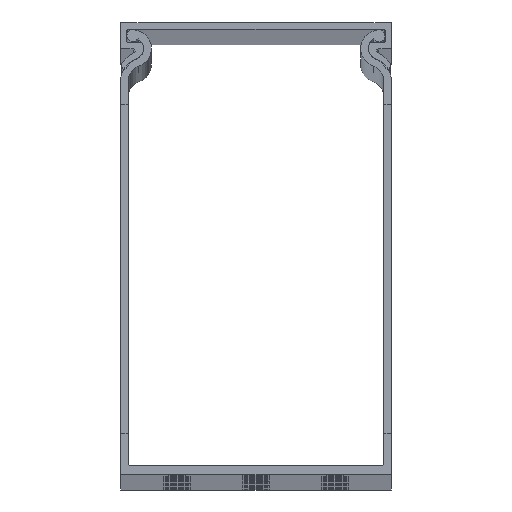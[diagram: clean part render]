
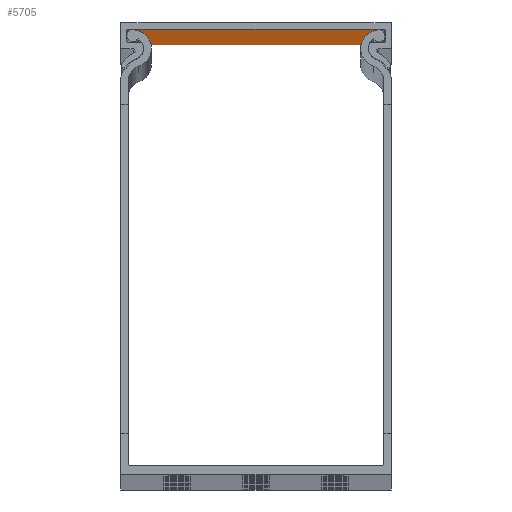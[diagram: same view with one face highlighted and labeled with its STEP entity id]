
A CAD part, top view. The second image highlights one B-rep face of the part: STEP entity #5705.
In plain terms, the highlighted planar face has unit normal (0, -1, 0).
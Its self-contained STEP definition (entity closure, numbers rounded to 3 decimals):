
#559 = ORIENTED_EDGE ( 'NONE', *, *, #46710, .F. ) ;
#1416 = LINE ( 'NONE', #49942, #38324 ) ;
#2066 = CARTESIAN_POINT ( 'NONE',  ( 2540.007, 1295.656, 2000. ) ) ;
#2425 = CARTESIAN_POINT ( 'NONE',  ( 2540.007, 1295.656, 0. ) ) ;
#2784 = VERTEX_POINT ( 'NONE', #34737 ) ;
#5705 = ADVANCED_FACE ( 'NONE', ( #50049 ), #6361, .F. ) ;
#6001 = LINE ( 'NONE', #56447, #6656 ) ;
#6361 = PLANE ( 'NONE',  #44052 ) ;
#6647 = VERTEX_POINT ( 'NONE', #38986 ) ;
#6656 = VECTOR ( 'NONE', #42954, 1000. ) ;
#9727 = ORIENTED_EDGE ( 'NONE', *, *, #42423, .T. ) ;
#11928 = EDGE_LOOP ( 'NONE', ( #9727, #559, #15216, #13612 ) ) ;
#12025 = EDGE_CURVE ( 'NONE', #6647, #32057, #35436, .T. ) ;
#13612 = ORIENTED_EDGE ( 'NONE', *, *, #12025, .T. ) ;
#15216 = ORIENTED_EDGE ( 'NONE', *, *, #22820, .F. ) ;
#22144 = DIRECTION ( 'NONE',  ( 0., 1., 0. ) ) ;
#22820 = EDGE_CURVE ( 'NONE', #6647, #40135, #6001, .T. ) ;
#23218 = DIRECTION ( 'NONE',  ( 0., 0., -1. ) ) ;
#23791 = VECTOR ( 'NONE', #23218, 1000. ) ;
#30947 = DIRECTION ( 'NONE',  ( 1., 0., 0. ) ) ;
#32057 = VERTEX_POINT ( 'NONE', #2425 ) ;
#34737 = CARTESIAN_POINT ( 'NONE',  ( 2596.807, 1295.656, 0. ) ) ;
#35436 = LINE ( 'NONE', #2066, #23791 ) ;
#38324 = VECTOR ( 'NONE', #54405, 1000. ) ;
#38986 = CARTESIAN_POINT ( 'NONE',  ( 2540.007, 1295.656, 2000. ) ) ;
#40135 = VERTEX_POINT ( 'NONE', #45256 ) ;
#41316 = DIRECTION ( 'NONE',  ( 0., 0., 1. ) ) ;
#42423 = EDGE_CURVE ( 'NONE', #32057, #2784, #48291, .T. ) ;
#42954 = DIRECTION ( 'NONE',  ( 1., 0., 0. ) ) ;
#44052 = AXIS2_PLACEMENT_3D ( 'NONE', #44538, #22144, #41316 ) ;
#44538 = CARTESIAN_POINT ( 'NONE',  ( 2568.407, 1295.656, 2000. ) ) ;
#45256 = CARTESIAN_POINT ( 'NONE',  ( 2596.807, 1295.656, 2000. ) ) ;
#46710 = EDGE_CURVE ( 'NONE', #40135, #2784, #1416, .T. ) ;
#48291 = LINE ( 'NONE', #53049, #54510 ) ;
#49942 = CARTESIAN_POINT ( 'NONE',  ( 2596.807, 1295.656, 2000. ) ) ;
#50049 = FACE_OUTER_BOUND ( 'NONE', #11928, .T. ) ;
#53049 = CARTESIAN_POINT ( 'NONE',  ( 2568.407, 1295.656, 0. ) ) ;
#54405 = DIRECTION ( 'NONE',  ( 0., 0., -1. ) ) ;
#54510 = VECTOR ( 'NONE', #30947, 1000. ) ;
#56447 = CARTESIAN_POINT ( 'NONE',  ( 2568.407, 1295.656, 2000. ) ) ;
